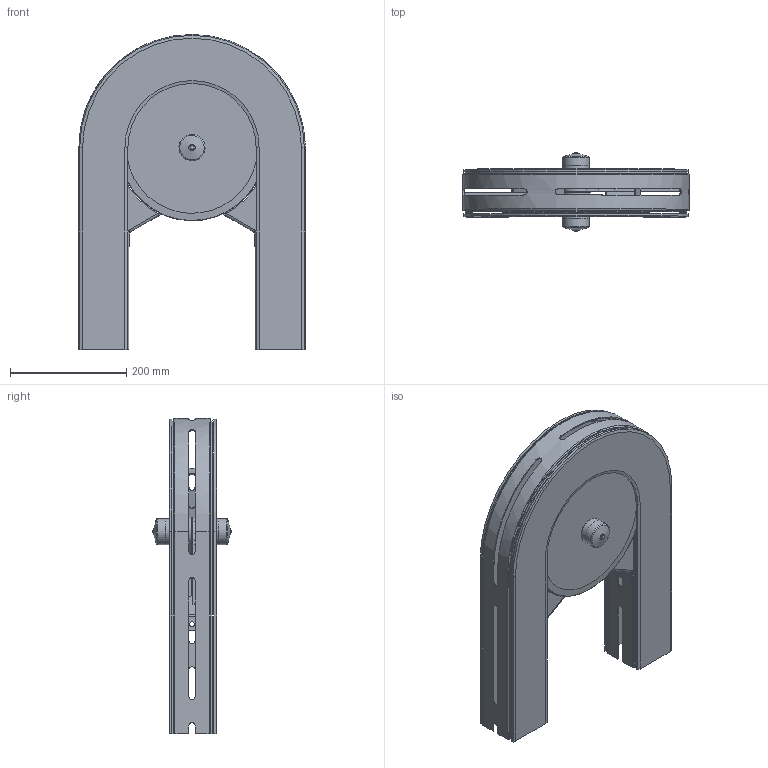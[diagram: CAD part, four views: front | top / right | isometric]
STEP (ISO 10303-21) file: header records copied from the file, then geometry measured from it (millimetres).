
FILE_DESCRIPTION(/* description */ ('WHEELCURVE 180° SERIE 530'),/* implementation_level */ '2;1');
FILE_NAME(/* name */ '530-5025-180.stp',/* time_stamp */ '2022-09-21T15:21:33+02:00',/* author */ ('ML'),/* organization */ ('CARRYLINE'),/* preprocessor_version */ 'ST-DEVELOPER v19.2',/* originating_system */ 'Autodesk Inventor 2023',/* authorisation */ '');
FILE_SCHEMA (('AUTOMOTIVE_DESIGN { 1 0 10303 214 3 1 1 }'));
Length unit declared in the file: millimetre
Products named in the file (8): 530-5025-180; 530-5375+830-2000-01; 14261_3; 14261_29; 14261_30; 14261_31; 830-5027_1; 830-5031
Assembly tree (10 placements, depth 2):
  530-5025-180
    530-5375+830-2000-01
    14261_3
    14261_29
    14261_30
    14261_31  x2
    830-5027_1  x2
    830-5031  x2
Bounding box: 390 x 135.92 x 543 mm (x, y, z)
Volume: 2432307.9 mm3; surface area: 1186492.8 mm2
Topology: 11 solids, 11 shells, 602 faces, 1593 edges, 1028 vertices
Faces by surface type: plane 305, cylinder 165, bspline 60, torus 38, cone 30, sphere 4
Full cylindrical faces by diameter (mm): 4.917 x8, 6.2 x8, 8.5 x2, 16.2 x2, 17 x4, 20 x4, 30 x3, 34.8 x4, 41.3 x2, 45 x2, 252 x2
Entity records: 16268 total; most frequent: CARTESIAN_POINT 4830, ORIENTED_EDGE 2376, DIRECTION 2198, EDGE_CURVE 1188, VERTEX_POINT 772, AXIS2_PLACEMENT_3D 751, LINE 696, VECTOR 696
